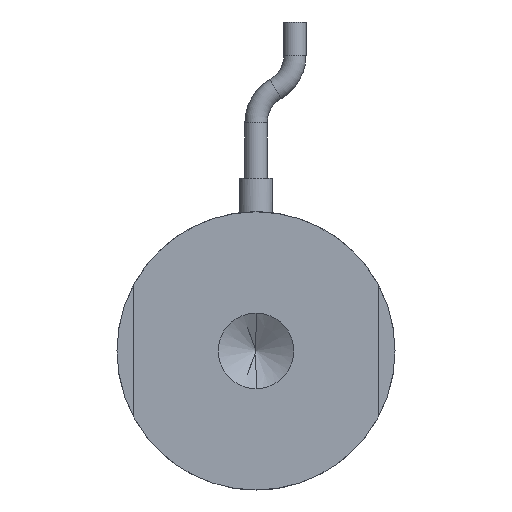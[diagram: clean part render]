
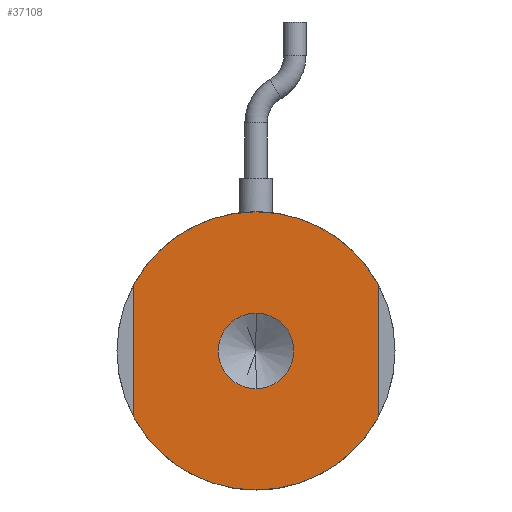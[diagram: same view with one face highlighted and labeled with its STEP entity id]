
A CAD part, front view. The second image highlights one B-rep face of the part: STEP entity #37108.
In plain terms, the highlighted planar face has unit normal (0, -1, 0).
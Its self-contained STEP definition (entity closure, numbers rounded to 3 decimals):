
#1284 = VERTEX_POINT ( 'NONE', #31522 ) ;
#1339 = DIRECTION ( 'NONE',  ( 0., 1., 0. ) ) ;
#1502 = EDGE_CURVE ( 'NONE', #4848, #16417, #18718, .T. ) ;
#1823 = EDGE_CURVE ( 'NONE', #15850, #42218, #33800, .T. ) ;
#2341 = DIRECTION ( 'NONE',  ( 0., 1., 0. ) ) ;
#2564 = CARTESIAN_POINT ( 'NONE',  ( 0., 0., -3.4 ) ) ;
#2857 = PLANE ( 'NONE',  #18444 ) ;
#3622 = EDGE_CURVE ( 'NONE', #35907, #27011, #40215, .T. ) ;
#3733 = EDGE_CURVE ( 'NONE', #16417, #4848, #39107, .T. ) ;
#4331 = ORIENTED_EDGE ( 'NONE', *, *, #23850, .F. ) ;
#4465 = AXIS2_PLACEMENT_3D ( 'NONE', #12890, #36970, #16358 ) ;
#4848 = VERTEX_POINT ( 'NONE', #24948 ) ;
#4925 = CARTESIAN_POINT ( 'NONE',  ( 0., 0., 0. ) ) ;
#7026 = CARTESIAN_POINT ( 'NONE',  ( 0., 0., 0. ) ) ;
#8975 = AXIS2_PLACEMENT_3D ( 'NONE', #21930, #1339, #25392 ) ;
#9529 = EDGE_LOOP ( 'NONE', ( #31127, #24243, #22932, #44251, #4331, #36650 ) ) ;
#10502 = DIRECTION ( 'NONE',  ( 0., 0., -1. ) ) ;
#11683 = CARTESIAN_POINT ( 'NONE',  ( 11., 0., 0. ) ) ;
#12328 = CARTESIAN_POINT ( 'NONE',  ( -11., 0., 5.937 ) ) ;
#12890 = CARTESIAN_POINT ( 'NONE',  ( 0., 0., 0. ) ) ;
#13547 = EDGE_CURVE ( 'NONE', #1284, #35907, #32822, .T. ) ;
#13925 = DIRECTION ( 'NONE',  ( 0., -1., 0. ) ) ;
#14634 = AXIS2_PLACEMENT_3D ( 'NONE', #19426, #43529, #22867 ) ;
#15540 = ORIENTED_EDGE ( 'NONE', *, *, #3733, .F. ) ;
#15579 = DIRECTION ( 'NONE',  ( 0., 0., 1. ) ) ;
#15850 = VERTEX_POINT ( 'NONE', #24156 ) ;
#16358 = DIRECTION ( 'NONE',  ( 0., 0., 1. ) ) ;
#16417 = VERTEX_POINT ( 'NONE', #2564 ) ;
#16578 = VECTOR ( 'NONE', #28827, 1000. ) ;
#16987 = CIRCLE ( 'NONE', #8975, 12.5 ) ;
#18444 = AXIS2_PLACEMENT_3D ( 'NONE', #4925, #36193, #15579 ) ;
#18718 = CIRCLE ( 'NONE', #24013, 3.4 ) ;
#19426 = CARTESIAN_POINT ( 'NONE',  ( 0., 0., 0. ) ) ;
#19804 = DIRECTION ( 'NONE',  ( 0., 0., 1. ) ) ;
#21930 = CARTESIAN_POINT ( 'NONE',  ( 0., 0., 0. ) ) ;
#22260 = ORIENTED_EDGE ( 'NONE', *, *, #1502, .F. ) ;
#22867 = DIRECTION ( 'NONE',  ( 0., 0., 1. ) ) ;
#22888 = AXIS2_PLACEMENT_3D ( 'NONE', #7026, #31085, #10502 ) ;
#22928 = CARTESIAN_POINT ( 'NONE',  ( 0., 0., 0. ) ) ;
#22932 = ORIENTED_EDGE ( 'NONE', *, *, #30890, .F. ) ;
#23850 = EDGE_CURVE ( 'NONE', #27011, #15850, #32524, .T. ) ;
#24013 = AXIS2_PLACEMENT_3D ( 'NONE', #34526, #13925, #37985 ) ;
#24156 = CARTESIAN_POINT ( 'NONE',  ( 11., 0., 5.937 ) ) ;
#24243 = ORIENTED_EDGE ( 'NONE', *, *, #31325, .F. ) ;
#24846 = FACE_OUTER_BOUND ( 'NONE', #9529, .T. ) ;
#24948 = CARTESIAN_POINT ( 'NONE',  ( 0., 0., 3.4 ) ) ;
#25392 = DIRECTION ( 'NONE',  ( 0., 0., 1. ) ) ;
#26399 = DIRECTION ( 'NONE',  ( 0., 0., 1. ) ) ;
#27011 = VERTEX_POINT ( 'NONE', #29716 ) ;
#28827 = DIRECTION ( 'NONE',  ( 0., 0., -1. ) ) ;
#29716 = CARTESIAN_POINT ( 'NONE',  ( 0., 0., 12.5 ) ) ;
#29721 = AXIS2_PLACEMENT_3D ( 'NONE', #22928, #2341, #26399 ) ;
#29823 = VERTEX_POINT ( 'NONE', #37739 ) ;
#30890 = EDGE_CURVE ( 'NONE', #42218, #29823, #16987, .T. ) ;
#31085 = DIRECTION ( 'NONE',  ( 0., -1., 0. ) ) ;
#31127 = ORIENTED_EDGE ( 'NONE', *, *, #13547, .F. ) ;
#31325 = EDGE_CURVE ( 'NONE', #29823, #1284, #36900, .T. ) ;
#31522 = CARTESIAN_POINT ( 'NONE',  ( -11., 0., -5.937 ) ) ;
#32524 = CIRCLE ( 'NONE', #14634, 12.5 ) ;
#32822 = LINE ( 'NONE', #40453, #40924 ) ;
#32948 = FACE_BOUND ( 'NONE', #38694, .T. ) ;
#33800 = LINE ( 'NONE', #11683, #16578 ) ;
#34526 = CARTESIAN_POINT ( 'NONE',  ( 0., 0., 0. ) ) ;
#35907 = VERTEX_POINT ( 'NONE', #12328 ) ;
#36193 = DIRECTION ( 'NONE',  ( 0., 1., 0. ) ) ;
#36650 = ORIENTED_EDGE ( 'NONE', *, *, #3622, .F. ) ;
#36900 = CIRCLE ( 'NONE', #29721, 12.5 ) ;
#36970 = DIRECTION ( 'NONE',  ( 0., 1., 0. ) ) ;
#37108 = ADVANCED_FACE ( 'NONE', ( #32948, #24846 ), #2857, .F. ) ;
#37739 = CARTESIAN_POINT ( 'NONE',  ( 0., 0., -12.5 ) ) ;
#37985 = DIRECTION ( 'NONE',  ( 0., 0., -1. ) ) ;
#38694 = EDGE_LOOP ( 'NONE', ( #15540, #22260 ) ) ;
#39107 = CIRCLE ( 'NONE', #22888, 3.4 ) ;
#40215 = CIRCLE ( 'NONE', #4465, 12.5 ) ;
#40453 = CARTESIAN_POINT ( 'NONE',  ( -11., 0., 0. ) ) ;
#40924 = VECTOR ( 'NONE', #19804, 1000. ) ;
#42218 = VERTEX_POINT ( 'NONE', #42784 ) ;
#42784 = CARTESIAN_POINT ( 'NONE',  ( 11., 0., -5.937 ) ) ;
#43529 = DIRECTION ( 'NONE',  ( 0., 1., 0. ) ) ;
#44251 = ORIENTED_EDGE ( 'NONE', *, *, #1823, .F. ) ;
